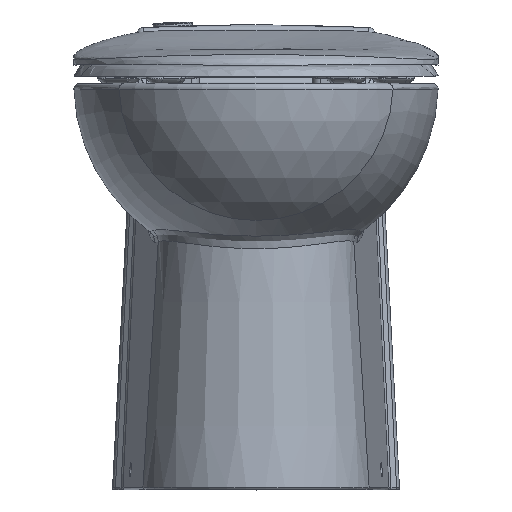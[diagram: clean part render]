
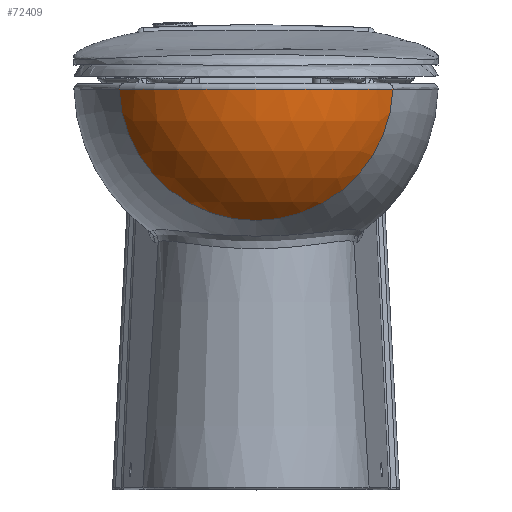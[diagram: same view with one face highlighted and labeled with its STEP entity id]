
A CAD part, top view. The second image highlights one B-rep face of the part: STEP entity #72409.
In plain terms, the highlighted spherical face has radius 160 mm.
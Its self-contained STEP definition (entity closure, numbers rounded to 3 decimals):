
#5237 = DIRECTION ( 'NONE',  ( 0., 0., 1. ) ) ;
#5423 = DIRECTION ( 'NONE',  ( 0., -1., 0. ) ) ;
#5457 = CARTESIAN_POINT ( 'NONE',  ( -0.245, -5.179, 269.358 ) ) ;
#7009 = EDGE_CURVE ( 'NONE', #72511, #175946, #79766, .T. ) ;
#9849 = AXIS2_PLACEMENT_3D ( 'NONE', #5457, #5423, #5237 ) ;
#11903 = CARTESIAN_POINT ( 'NONE',  ( -138.669, -5.179, 349.358 ) ) ;
#21001 = DIRECTION ( 'NONE',  ( 0., 0., -1. ) ) ;
#22140 = EDGE_LOOP ( 'NONE', ( #39585, #67781 ) ) ;
#35092 = CARTESIAN_POINT ( 'NONE',  ( -0.245, 1.054, 269.358 ) ) ;
#39585 = ORIENTED_EDGE ( 'NONE', *, *, #67451, .F. ) ;
#67451 = EDGE_CURVE ( 'NONE', #72511, #175946, #83318, .T. ) ;
#67781 = ORIENTED_EDGE ( 'NONE', *, *, #7009, .T. ) ;
#72409 = ADVANCED_FACE ( 'NONE', ( #146395 ), #109389, .T. ) ;
#72511 = VERTEX_POINT ( 'NONE', #119974 ) ;
#79766 = CIRCLE ( 'NONE', #9849, 159.879 ) ;
#83318 = CIRCLE ( 'NONE', #85499, 138.564 ) ;
#85499 = AXIS2_PLACEMENT_3D ( 'NONE', #104633, #21001, #118623 ) ;
#104633 = CARTESIAN_POINT ( 'NONE',  ( -0.245, 1.054, 349.358 ) ) ;
#109389 = SPHERICAL_SURFACE ( 'NONE', #174382, 160. ) ;
#118623 = DIRECTION ( 'NONE',  ( -1., 0., 0. ) ) ;
#119374 = DIRECTION ( 'NONE',  ( 0., -1., 0. ) ) ;
#119974 = CARTESIAN_POINT ( 'NONE',  ( 138.178, -5.179, 349.358 ) ) ;
#146395 = FACE_OUTER_BOUND ( 'NONE', #22140, .T. ) ;
#161348 = DIRECTION ( 'NONE',  ( 1., 0., 0. ) ) ;
#174382 = AXIS2_PLACEMENT_3D ( 'NONE', #35092, #119374, #161348 ) ;
#175946 = VERTEX_POINT ( 'NONE', #11903 ) ;
